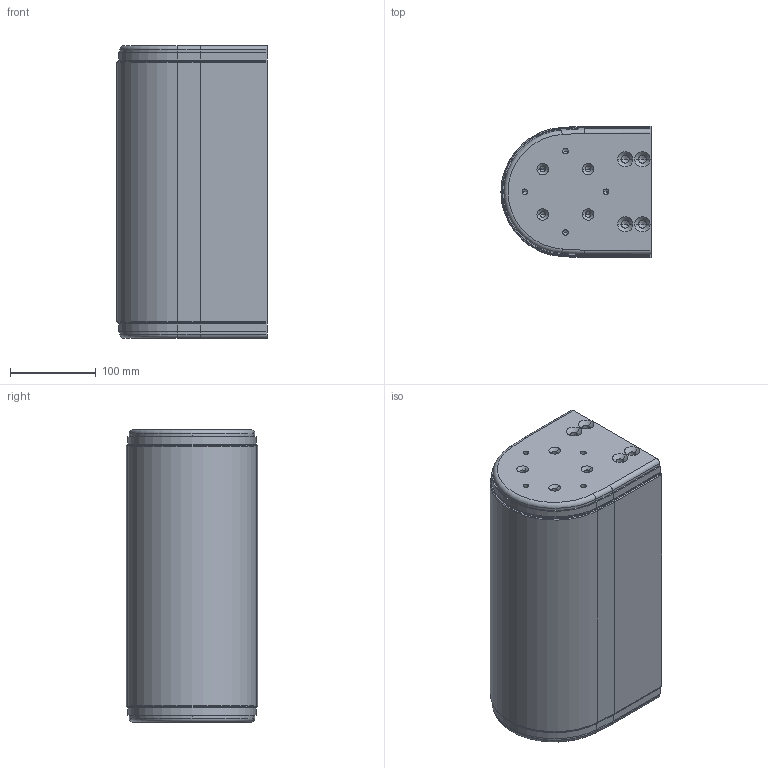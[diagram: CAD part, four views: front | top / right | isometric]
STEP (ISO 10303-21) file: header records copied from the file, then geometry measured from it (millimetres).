
FILE_DESCRIPTION (( 'STEP AP214' ), '1' );
FILE_NAME ('F2 1200 RP.step', '2017-04-05T06:47:47', ( '' ), ( '' ), 'SwSTEP 2.0', 'SolidWorks 2015', '' );
FILE_SCHEMA (( 'AUTOMOTIVE_DESIGN' ));
Length unit declared in the file: millimetre
Products named in the file (1): F2 1200 RP
Bounding box: 175.3 x 153.4 x 342 mm (x, y, z)
Volume: 8219238.7 mm3; surface area: 255568.9 mm2
Topology: 1 solids, 1 shells, 194 faces, 480 edges, 264 vertices
Faces by surface type: cone 80, cylinder 73, plane 37, torus 4
Entity records: 5811 total; most frequent: DIRECTION 980, CARTESIAN_POINT 915, ORIENTED_EDGE 864, EDGE_CURVE 432, AXIS2_PLACEMENT_3D 361, VERTEX_POINT 264, LINE 258, VECTOR 258
